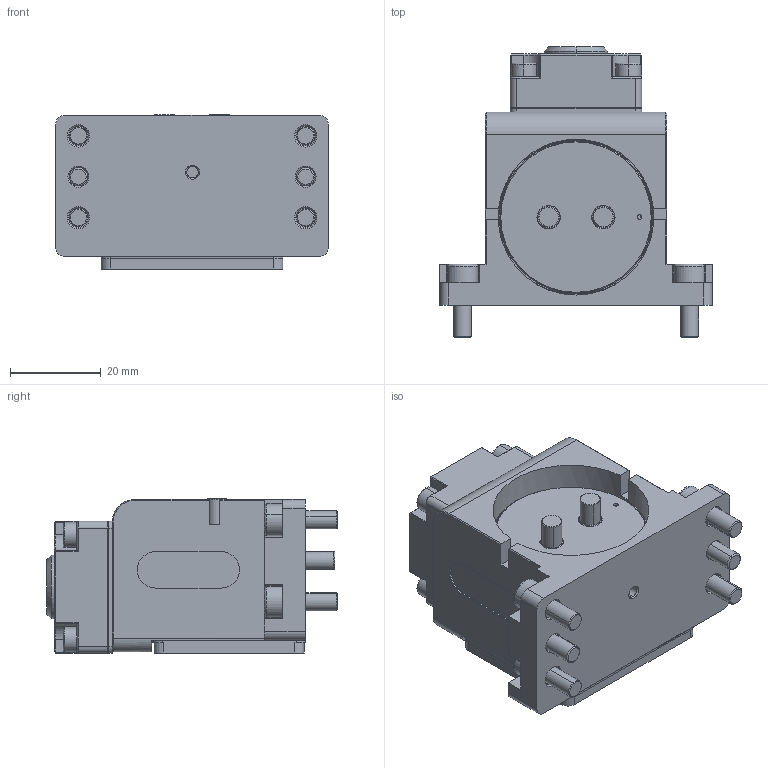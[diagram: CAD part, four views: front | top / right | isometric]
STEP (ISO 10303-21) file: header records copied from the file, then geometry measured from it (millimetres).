
FILE_DESCRIPTION(/* description */ (''),/* implementation_level */ '2;1');
FILE_NAME(/* name */ 'QCHFM-E14-C1G',/* time_stamp */ '2022-09-05T16:26:13+08:00',/* author */ (''),/* organization */ (''),/* preprocessor_version */ 'ST-DEVELOPER v9',/* originating_system */ 'UGS - NX 4.0',/* authorisation */ '');
FILE_SCHEMA (('AUTOMOTIVE_DESIGN { 1 0 10303 214 1 1 1 1 }'));
Length unit declared in the file: millimetre
Products named in the file (1): Admi1530pt0b
Bounding box: 60 x 63.9 x 33.9 mm (x, y, z)
Volume: 67014 mm3; surface area: 18135.7 mm2
Topology: 1 solids, 27 shells, 850 faces, 2044 edges, 1262 vertices
Faces by surface type: plane 391, cylinder 218, cone 183, torus 58
Full cylindrical faces by diameter (mm): 23 x1
Entity records: 25258 total; most frequent: CARTESIAN_POINT 5029, DIRECTION 4500, ORIENTED_EDGE 4036, EDGE_CURVE 2018, AXIS2_PLACEMENT_3D 1714, VERTEX_POINT 1261, LINE 1072, VECTOR 1072
